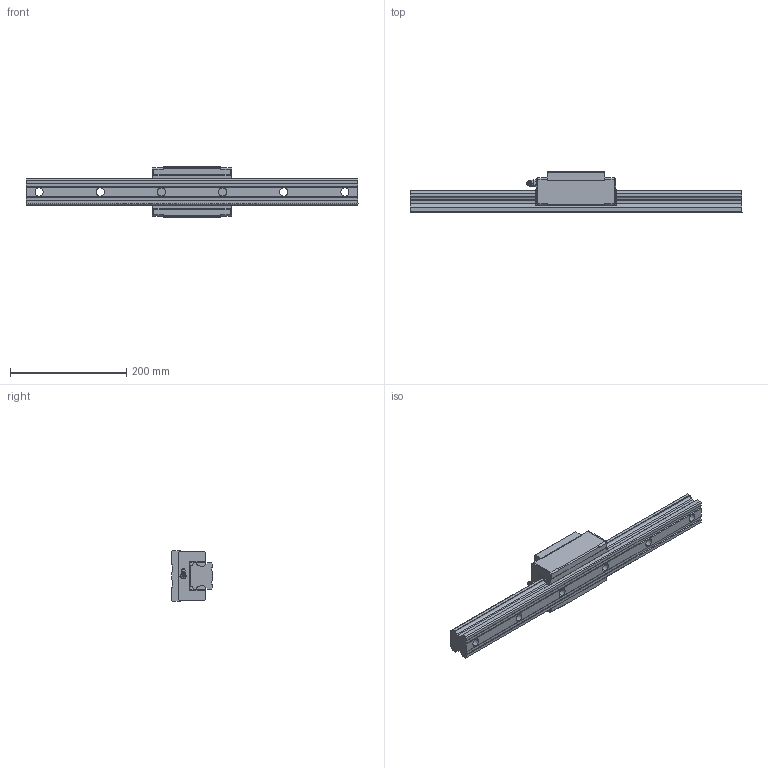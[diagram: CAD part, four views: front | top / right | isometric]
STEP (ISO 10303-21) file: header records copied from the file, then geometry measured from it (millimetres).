
FILE_DESCRIPTION (( 'STEP AP203' ), '1' );
FILE_NAME ('HSV45RSS.STEP', '2016-03-14T13:49:57', ( 'EOS' ), ( '' ), 'SwSTEP 2.0', 'SolidWorks 2016', '' );
FILE_SCHEMA (( 'CONFIG_CONTROL_DESIGN' ));
Length unit declared in the file: millimetre
Products named in the file (4): 1; 3; HSV45R; HSV45RSS
Assembly tree (3 placements, depth 2):
  HSV45RSS
    1
    HSV45R
    3
Bounding box: 570 x 70 x 86 mm (x, y, z)
Volume: 1290041 mm3; surface area: 169171.8 mm2
Topology: 3 solids, 3 shells, 260 faces, 687 edges, 435 vertices
Faces by surface type: plane 169, cylinder 42, cone 40, bspline 9
Entity records: 8636 total; most frequent: CARTESIAN_POINT 1846, ORIENTED_EDGE 1346, DIRECTION 1284, EDGE_CURVE 673, VECTOR 498, LINE 498, VERTEX_POINT 435, AXIS2_PLACEMENT_3D 393
